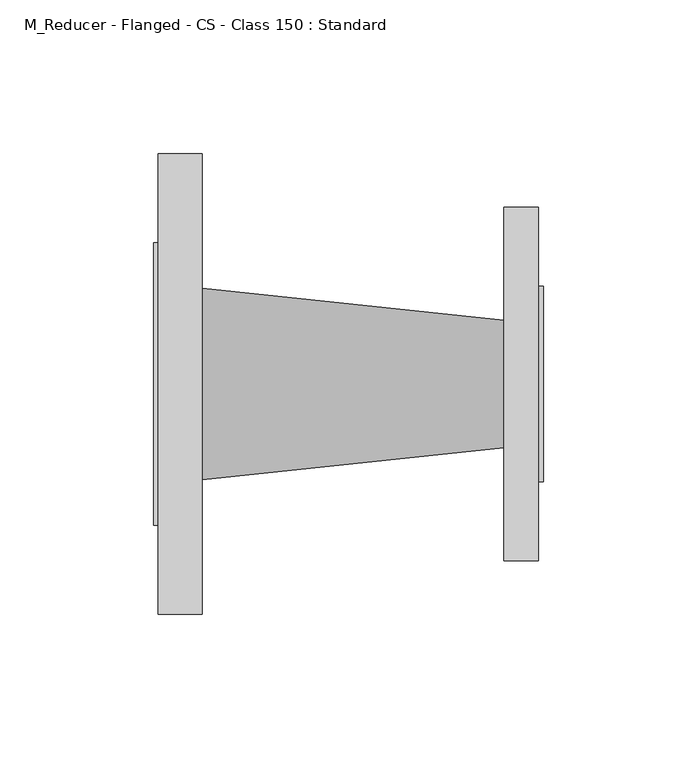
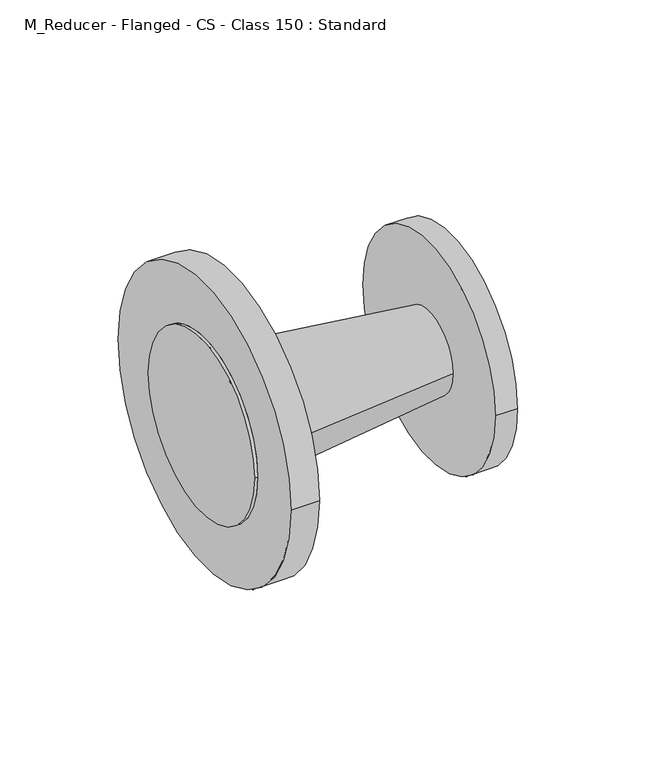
"""IFC4 building model written with IfcOpenShell, lengths in millimetres: pipe fitting geometry, M_Reducer - Flanged - CS - Class 150 : Standard."""

from ifc_helpers import new_model, si_unit, frame, origin, place, context, project, spatial, polyline, circle_curve, source, transform, mapped, element, save
from ifc_brep_helpers import plane_surface, cylinder_surface, revolved_surface, advanced_brep


def m_reducer_flanged_cs_class_150_standard_13db1923(model_context):
    return source(origin(), model_context, "Body", "AdvancedBrep", [
        advanced_brep(
        [(15.8875, -75.0, 0.0), (15.8875, 75.0, 0.0), (15.8875, 31.1, 0.0), (15.8875, -31.1, 0.0), (1.5875, -75.0, 0.0), (1.5875, 75.0, 0.0), (1.5875, -46.05, 0.0), (1.5875, 46.05, 0.0), (114.2125, 20.8, 0.0), (114.2125, -20.8, 0.0), (125.4125, -57.5, 0.0), (125.4125, 57.5, 0.0), (125.4125, 31.75, 0.0), (125.4125, -31.75, 0.0), (114.2125, -57.5, 0.0), (114.2125, 57.5, 0.0), (0.0, -46.05, 0.0), (0.0, 46.05, 0.0), (127.0, -31.75, 0.0), (127.0, 31.75, 0.0)],
        [
            (0, 1, circle_curve(frame((15.8875, 0.0, 0.0), z_axis=(1.0, 0.0, 0.0), x_axis=(0.0, 1.0, 0.0)), 75.0)),
            (1, 0, circle_curve(frame((15.8875, 0.0, 0.0), z_axis=(1.0, 0.0, 0.0), x_axis=(0.0, 1.0, 0.0)), 75.0)),
            (2, 3, circle_curve(frame((15.8875, 0.0, 0.0), z_axis=(-1.0, 0.0, 0.0), x_axis=(0.0, -1.0, 0.0)), 31.1)),
            (3, 2, circle_curve(frame((15.8875, 0.0, 0.0), z_axis=(-1.0, 0.0, 0.0), x_axis=(0.0, 1.0, 0.0)), 31.1)),
            (4, 5, circle_curve(frame((1.5875, 0.0, 0.0), z_axis=(-1.0, 0.0, 0.0), x_axis=(0.0, 1.0, 0.0)), 75.0)),
            (5, 4, circle_curve(frame((1.5875, 0.0, 0.0), z_axis=(-1.0, 0.0, 0.0), x_axis=(0.0, 1.0, 0.0)), 75.0)),
            (6, 7, circle_curve(frame((1.5875, 0.0, 0.0), z_axis=(1.0, 0.0, 0.0), x_axis=(0.0, 1.0, 0.0)), 46.05)),
            (7, 6, circle_curve(frame((1.5875, 0.0, 0.0), z_axis=(1.0, 0.0, 0.0), x_axis=(0.0, 1.0, 0.0)), 46.05)),
            (0, 4),
            (5, 1),
            (2, 8),
            (8, 9, circle_curve(frame((114.2125, 0.0, 0.0), z_axis=(-1.0, 0.0, 0.0), x_axis=(0.0, -1.0, 0.0)), 20.8)),
            (9, 3),
            (9, 8, circle_curve(frame((114.2125, 0.0, 0.0), z_axis=(-1.0, 0.0, 0.0), x_axis=(0.0, 1.0, 0.0)), 20.8)),
            (10, 11, circle_curve(frame((125.4125, 0.0, 0.0), z_axis=(1.0, 0.0, 0.0), x_axis=(0.0, 1.0, 0.0)), 57.5)),
            (11, 10, circle_curve(frame((125.4125, 0.0, 0.0), z_axis=(1.0, 0.0, 0.0), x_axis=(0.0, 1.0, 0.0)), 57.5)),
            (12, 13, circle_curve(frame((125.4125, 0.0, 0.0), z_axis=(-1.0, 0.0, 0.0), x_axis=(0.0, 1.0, 0.0)), 31.75)),
            (13, 12, circle_curve(frame((125.4125, 0.0, 0.0), z_axis=(-1.0, 0.0, 0.0), x_axis=(0.0, 1.0, 0.0)), 31.75)),
            (14, 15, circle_curve(frame((114.2125, 0.0, 0.0), z_axis=(-1.0, 0.0, 0.0), x_axis=(0.0, 1.0, 0.0)), 57.5)),
            (15, 14, circle_curve(frame((114.2125, 0.0, 0.0), z_axis=(-1.0, 0.0, 0.0), x_axis=(0.0, 1.0, 0.0)), 57.5)),
            (10, 14),
            (15, 11),
            (16, 17, circle_curve(frame((0.0, 0.0, 0.0), z_axis=(-1.0, 0.0, 0.0), x_axis=(0.0, 1.0, 0.0)), 46.05)),
            (17, 16, circle_curve(frame((0.0, 0.0, 0.0), z_axis=(-1.0, 0.0, 0.0), x_axis=(0.0, 1.0, 0.0)), 46.05)),
            (17, 7),
            (6, 16),
            (18, 19, circle_curve(frame((127.0, 0.0, 0.0), z_axis=(1.0, 0.0, 0.0), x_axis=(0.0, 1.0, 0.0)), 31.75)),
            (19, 18, circle_curve(frame((127.0, 0.0, 0.0), z_axis=(1.0, 0.0, 0.0), x_axis=(0.0, 1.0, 0.0)), 31.75)),
            (18, 13),
            (12, 19),
        ],
        [
            plane_surface(frame((15.8875, 75.0, 0.0), z_axis=(1.0, 0.0, 0.0), x_axis=(0.0, 0.0, 1.0))),
            plane_surface(frame((1.5875, 75.0, 0.0), z_axis=(-1.0, 0.0, 0.0), x_axis=(0.0, 0.0, -1.0))),
            cylinder_surface(frame((1.5875, 0.0, 0.0), z_axis=(1.0, 0.0, 0.0), x_axis=(0.0, 1.0, 0.0)), 75.0),
            revolved_surface(polyline([(114.2125, 20.799999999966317, 0.0), (15.887499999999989, 31.1, 0.0)]), (312.7717233, 0.0, 0.0), (-1.0, 0.0, 0.0)),
            plane_surface(frame((125.4125, 57.5, 0.0), z_axis=(1.0, 0.0, 0.0), x_axis=(0.0, 0.0, 1.0))),
            plane_surface(frame((114.2125, 57.5, 0.0), z_axis=(-1.0, 0.0, 0.0), x_axis=(0.0, 0.0, -1.0))),
            cylinder_surface(frame((114.2125, 0.0, 0.0), z_axis=(1.0, 0.0, 0.0), x_axis=(0.0, 1.0, 0.0)), 57.5),
            plane_surface(frame((0.0, 46.05, 0.0), z_axis=(-1.0, 0.0, 0.0), x_axis=(0.0, 0.0, -1.0))),
            cylinder_surface(frame((0.0, 0.0, 0.0), z_axis=(1.0, 0.0, 0.0), x_axis=(0.0, 1.0, 0.0)), 46.05),
            plane_surface(frame((127.0, 31.75, 0.0), z_axis=(1.0, 0.0, 0.0), x_axis=(0.0, 0.0, 1.0))),
            cylinder_surface(frame((125.4125, 0.0, 0.0), z_axis=(1.0, 0.0, 0.0), x_axis=(0.0, 1.0, 0.0)), 31.75),
        ],
        [
            (0, [[1, 2], [3, 4]]),
            (1, [[5, 6], [7, 8]]),
            (2, [[-1, 9, -6, 10]]),
            (2, [[-2, -10, -5, -9]]),
            (3, [[11, 12, 13, -3]]),
            (3, [[-11, -4, -13, 14]]),
            (4, [[15, 16], [17, 18]]),
            (5, [[19, 20], [-12, -14]]),
            (6, [[-15, 21, -20, 22]]),
            (6, [[-16, -22, -19, -21]]),
            (7, [[23, 24]]),
            (8, [[-24, 25, -7, 26]]),
            (8, [[-23, -26, -8, -25]]),
            (9, [[27, 28]]),
            (10, [[-27, 29, -17, 30]]),
            (10, [[-28, -30, -18, -29]]),
        ],
    ),
    ])


if __name__ == "__main__":
    model = new_model("IFC4")
    model_context = context("Model", 3, world=origin())
    ifc_project = project(units=[si_unit("LENGTHUNIT", "METRE", prefix="MILLI")], contexts=[model_context])
    site = spatial("IfcSite", under=ifc_project)
    building = spatial("IfcBuilding", under=site)
    placement = place(None, origin())
    m_reducer_flanged_cs_class_150_standard_shape = m_reducer_flanged_cs_class_150_standard_13db1923(model_context)
    element("IfcPipeFitting", 1, ObjectType="M_Reducer - Flanged - CS - Class 150 : Standard", at=placement, inside=building, context=model_context, shape_type="MappedRepresentation", body=[
        mapped(m_reducer_flanged_cs_class_150_standard_shape, transform((0.0, 0.0, 0.0), x_axis=(1.0, 0.0, 0.0), y_axis=(0.0, 1.0, 0.0), z_axis=(0.0, 0.0, 1.0))),
    ])
    save(model, "model.ifc")
